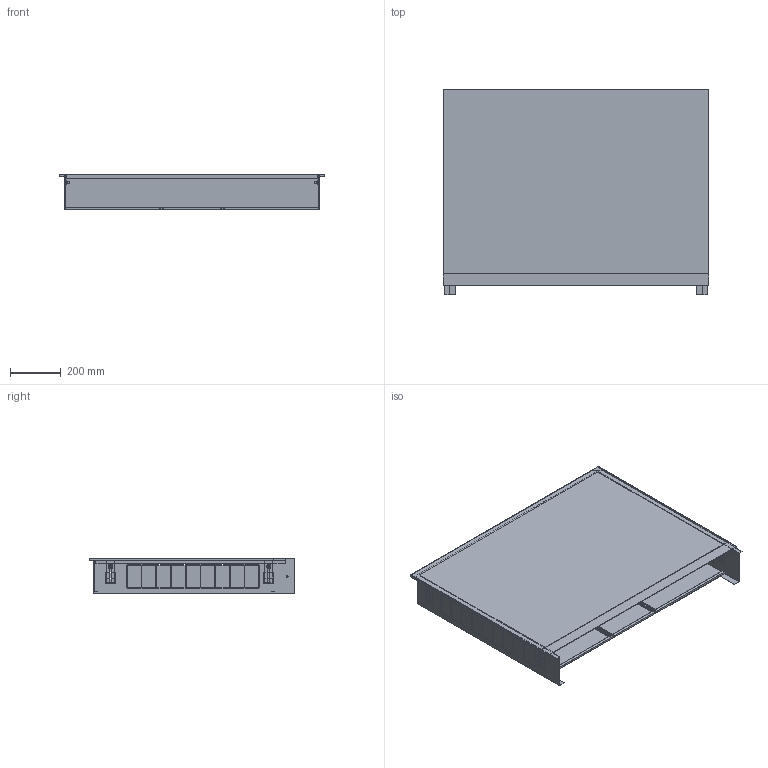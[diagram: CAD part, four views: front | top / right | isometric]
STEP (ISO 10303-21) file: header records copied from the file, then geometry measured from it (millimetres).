
FILE_DESCRIPTION(('STEP AP203'), '1');
FILE_NAME('VTc.540.H.05', '', ('UNSPECIFIED'), ('UNSPECIFIED'), 'C3D Converter', 'C3D Toolkit', '');
FILE_SCHEMA(('CONFIG_CONTROL_DESIGN'));
Length unit declared in the file: millimetre
Products named in the file (1): ВР.301442.009.000 СБ
Bounding box: 1045.6 x 808.3 x 141.3 mm (x, y, z)
Volume: 2195501.8 mm3; surface area: 4121099.5 mm2
Topology: 1 solids, 1 shells, 620 faces, 1750 edges, 1134 vertices
Faces by surface type: plane 514, cone 60, cylinder 42, sphere 4
Full cylindrical faces by diameter (mm): 6 x8, 6.4 x4, 7 x2, 14 x4, 18 x4
Entity records: 21589 total; most frequent: CARTESIAN_POINT 5612, ORIENTED_EDGE 3384, DIRECTION 2998, EDGE_CURVE 1692, LINE 1420, VECTOR 1420, VERTEX_POINT 1122, EDGE_LOOP 810
